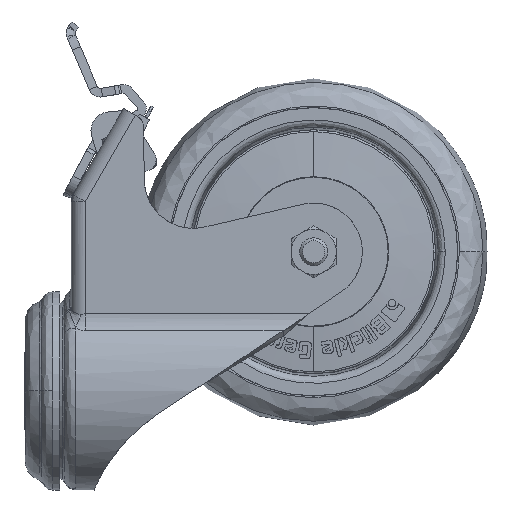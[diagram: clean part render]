
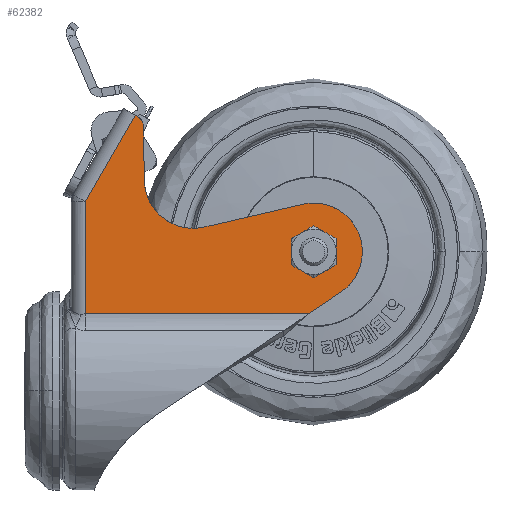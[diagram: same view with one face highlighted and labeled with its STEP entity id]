
A CAD part, left-side view. The second image highlights one B-rep face of the part: STEP entity #62382.
In plain terms, the highlighted planar face has unit normal (-1, 0, 0).
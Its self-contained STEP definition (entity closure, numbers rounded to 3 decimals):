
#1801 = DIRECTION ( 'NONE',  ( 0., -0.832, 0.555 ) ) ;
#2169 = DIRECTION ( 'NONE',  ( 0., 0.017, 1. ) ) ;
#2570 = LINE ( 'NONE', #38371, #101600 ) ;
#3184 = VERTEX_POINT ( 'NONE', #122154 ) ;
#3856 = LINE ( 'NONE', #148350, #37332 ) ;
#7084 = VECTOR ( 'NONE', #54551, 1000. ) ;
#8659 = ORIENTED_EDGE ( 'NONE', *, *, #72796, .T. ) ;
#9025 = CARTESIAN_POINT ( 'NONE',  ( -21., -85.018, 53.935 ) ) ;
#9554 = B_SPLINE_CURVE_WITH_KNOTS ( 'NONE', 3,
 ( #37423, #132191, #24273, #119780, #47542, #23520, #13349, #14132, #11844, #61491, #108844, #26549, #111170 ),
 .UNSPECIFIED., .F., .F.,
 ( 4, 1, 1, 1, 1, 1, 1, 1, 1, 1, 4 ),
 ( 0., 0.002, 0.005, 0.007, 0.01, 0.012, 0.015, 0.017, 0.02, 0.022, 0.025 ),
 .UNSPECIFIED. ) ;
#11373 = CARTESIAN_POINT ( 'NONE',  ( -21., -95.354, 46.755 ) ) ;
#11844 = CARTESIAN_POINT ( 'NONE',  ( -21., -36.333, 53.355 ) ) ;
#13349 = CARTESIAN_POINT ( 'NONE',  ( -21., -39.655, 49.639 ) ) ;
#14132 = CARTESIAN_POINT ( 'NONE',  ( -21., -37.828, 51.349 ) ) ;
#16303 = DIRECTION ( 'NONE',  ( 0., 0., -1. ) ) ;
#19155 = CARTESIAN_POINT ( 'NONE',  ( -21., -51.469, 47.089 ) ) ;
#22175 = AXIS2_PLACEMENT_3D ( 'NONE', #131180, #72050, #61243 ) ;
#22273 = CARTESIAN_POINT ( 'NONE',  ( -21., -80.693, 53.836 ) ) ;
#23520 = CARTESIAN_POINT ( 'NONE',  ( -21., -41.756, 48.28 ) ) ;
#23872 = VERTEX_POINT ( 'NONE', #19155 ) ;
#24273 = CARTESIAN_POINT ( 'NONE',  ( -21., -49.007, 46.673 ) ) ;
#26486 = LINE ( 'NONE', #87774, #37755 ) ;
#26549 = CARTESIAN_POINT ( 'NONE',  ( -21., -34.336, 59.655 ) ) ;
#27793 = CARTESIAN_POINT ( 'NONE',  ( -21., -91.49, 28.835 ) ) ;
#28509 = CARTESIAN_POINT ( 'NONE',  ( -21., -81.494, 22.164 ) ) ;
#30049 = CARTESIAN_POINT ( 'NONE',  ( -21., -32.115, 78.999 ) ) ;
#31587 = ORIENTED_EDGE ( 'NONE', *, *, #116150, .T. ) ;
#31643 = CARTESIAN_POINT ( 'NONE',  ( -21., -79.851, 53.641 ) ) ;
#33124 = B_SPLINE_CURVE_WITH_KNOTS ( 'NONE', 3,
 ( #141393, #151523, #57565, #45109, #128255, #58343, #91656 ),
 .UNSPECIFIED., .F., .F.,
 ( 4, 1, 1, 1, 4 ),
 ( 0., 0.001, 0.002, 0.002, 0.003 ),
 .UNSPECIFIED. ) ;
#34032 = EDGE_LOOP ( 'NONE', ( #142790, #108730, #74132, #83355, #8659, #55802, #31587, #53066, #113911, #86705 ) ) ;
#37332 = VECTOR ( 'NONE', #16303, 1000. ) ;
#37423 = CARTESIAN_POINT ( 'NONE',  ( -21., -51.469, 47.089 ) ) ;
#37755 = VECTOR ( 'NONE', #146088, 1000. ) ;
#38371 = CARTESIAN_POINT ( 'NONE',  ( -21., -81.494, 22.164 ) ) ;
#40172 = DIRECTION ( 'NONE',  ( 0., 0.866, 0.5 ) ) ;
#40950 = EDGE_CURVE ( 'NONE', #114731, #52004, #114823, .T. ) ;
#44505 = VERTEX_POINT ( 'NONE', #62413 ) ;
#44713 = CARTESIAN_POINT ( 'NONE',  ( -21., -34.048, 76.203 ) ) ;
#44785 = CARTESIAN_POINT ( 'NONE',  ( -21., -96.673, 36.639 ) ) ;
#45109 = CARTESIAN_POINT ( 'NONE',  ( -21., -33.662, 77.69 ) ) ;
#47542 = CARTESIAN_POINT ( 'NONE',  ( -21., -44.064, 47.315 ) ) ;
#48081 = PLANE ( 'NONE',  #22175 ) ;
#52004 = VERTEX_POINT ( 'NONE', #28509 ) ;
#53066 = ORIENTED_EDGE ( 'NONE', *, *, #101044, .T. ) ;
#54551 = DIRECTION ( 'NONE',  ( 0., 0.974, -0.225 ) ) ;
#55685 = CARTESIAN_POINT ( 'NONE',  ( -21., -82.415, 54.068 ) ) ;
#55802 = ORIENTED_EDGE ( 'NONE', *, *, #99637, .T. ) ;
#57565 = CARTESIAN_POINT ( 'NONE',  ( -21., -33.968, 76.974 ) ) ;
#58343 = CARTESIAN_POINT ( 'NONE',  ( -21., -32.771, 78.62 ) ) ;
#58776 = CARTESIAN_POINT ( 'NONE',  ( -21., -89.928, 52.258 ) ) ;
#58980 = FACE_OUTER_BOUND ( 'NONE', #34032, .T. ) ;
#61243 = DIRECTION ( 'NONE',  ( 0., 0., 1. ) ) ;
#61491 = CARTESIAN_POINT ( 'NONE',  ( -21., -35.216, 55.595 ) ) ;
#62382 = ADVANCED_FACE ( 'NONE', ( #58980 ), #48081, .T. ) ;
#62413 = CARTESIAN_POINT ( 'NONE',  ( -21., -90.771, 28.355 ) ) ;
#64374 = DIRECTION ( 'NONE',  ( 0., -1., 0. ) ) ;
#68039 = CARTESIAN_POINT ( 'NONE',  ( -21., -87.551, 53.325 ) ) ;
#70328 = CARTESIAN_POINT ( 'NONE',  ( -21., -94.527, 31.914 ) ) ;
#72050 = DIRECTION ( 'NONE',  ( -1., 0., 0. ) ) ;
#72796 = EDGE_CURVE ( 'NONE', #44505, #136819, #103550, .T. ) ;
#74132 = ORIENTED_EDGE ( 'NONE', *, *, #40950, .T. ) ;
#75097 = CARTESIAN_POINT ( 'NONE',  ( -21., -92.84, 29.928 ) ) ;
#78883 = VECTOR ( 'NONE', #2169, 1000. ) ;
#80471 = CARTESIAN_POINT ( 'NONE',  ( -21., -97.059, 39.216 ) ) ;
#83355 = ORIENTED_EDGE ( 'NONE', *, *, #146262, .T. ) ;
#84654 = CARTESIAN_POINT ( 'NONE',  ( -21., -32.548, 78.749 ) ) ;
#86705 = ORIENTED_EDGE ( 'NONE', *, *, #153538, .T. ) ;
#86768 = CARTESIAN_POINT ( 'NONE',  ( -21., -90.771, 28.355 ) ) ;
#87564 = LINE ( 'NONE', #135006, #78883 ) ;
#87774 = CARTESIAN_POINT ( 'NONE',  ( -21., -24.516, 66.837 ) ) ;
#88860 = VECTOR ( 'NONE', #64374, 1000. ) ;
#91656 = CARTESIAN_POINT ( 'NONE',  ( -21., -32.548, 78.749 ) ) ;
#92886 = CARTESIAN_POINT ( 'NONE',  ( -21., -96.962, 41.82 ) ) ;
#93242 = EDGE_CURVE ( 'NONE', #131119, #121168, #26486, .T. ) ;
#93650 = CARTESIAN_POINT ( 'NONE',  ( -21., -92.069, 50.771 ) ) ;
#97066 = CARTESIAN_POINT ( 'NONE',  ( -21., -17.35, 54.425 ) ) ;
#99075 = EDGE_CURVE ( 'NONE', #149600, #112766, #33124, .T. ) ;
#99637 = EDGE_CURVE ( 'NONE', #136819, #23872, #103380, .T. ) ;
#99844 = CARTESIAN_POINT ( 'NONE',  ( -21., -17.35, 22.164 ) ) ;
#101044 = EDGE_CURVE ( 'NONE', #3184, #149600, #87564, .T. ) ;
#101600 = VECTOR ( 'NONE', #1801, 1000. ) ;
#103380 = LINE ( 'NONE', #104133, #7084 ) ;
#103550 = B_SPLINE_CURVE_WITH_KNOTS ( 'NONE', 3,
 ( #86768, #27793, #75097, #70328, #149661, #44785, #80471, #92886, #115447, #11373, #151198, #93650, #58776, #68039, #9025, #55685, #22273, #31643 ),
 .UNSPECIFIED., .F., .F.,
 ( 4, 1, 1, 1, 1, 1, 1, 1, 1, 1, 1, 1, 1, 1, 1, 4 ),
 ( 0., 0.003, 0.005, 0.008, 0.01, 0.013, 0.015, 0.018, 0.021, 0.023, 0.026, 0.028, 0.031, 0.034, 0.036, 0.039 ),
 .UNSPECIFIED. ) ;
#104133 = CARTESIAN_POINT ( 'NONE',  ( -21., -79.851, 53.641 ) ) ;
#108730 = ORIENTED_EDGE ( 'NONE', *, *, #137544, .T. ) ;
#108844 = CARTESIAN_POINT ( 'NONE',  ( -21., -34.514, 57.996 ) ) ;
#110820 = LINE ( 'NONE', #30049, #115627 ) ;
#111170 = CARTESIAN_POINT ( 'NONE',  ( -21., -34.322, 60.486 ) ) ;
#112766 = VERTEX_POINT ( 'NONE', #84654 ) ;
#113911 = ORIENTED_EDGE ( 'NONE', *, *, #99075, .T. ) ;
#114731 = VERTEX_POINT ( 'NONE', #99844 ) ;
#114823 = LINE ( 'NONE', #124225, #88860 ) ;
#115447 = CARTESIAN_POINT ( 'NONE',  ( -21., -96.388, 44.362 ) ) ;
#115627 = VECTOR ( 'NONE', #40172, 1000. ) ;
#116150 = EDGE_CURVE ( 'NONE', #23872, #3184, #9554, .T. ) ;
#117166 = CARTESIAN_POINT ( 'NONE',  ( -21., -79.851, 53.641 ) ) ;
#119780 = CARTESIAN_POINT ( 'NONE',  ( -21., -46.507, 46.773 ) ) ;
#121168 = VERTEX_POINT ( 'NONE', #97066 ) ;
#122154 = CARTESIAN_POINT ( 'NONE',  ( -21., -34.322, 60.486 ) ) ;
#124225 = CARTESIAN_POINT ( 'NONE',  ( -21., -57.178, 22.164 ) ) ;
#126397 = CARTESIAN_POINT ( 'NONE',  ( -21., -31.682, 79.249 ) ) ;
#128255 = CARTESIAN_POINT ( 'NONE',  ( -21., -33.184, 78.305 ) ) ;
#131119 = VERTEX_POINT ( 'NONE', #126397 ) ;
#131180 = CARTESIAN_POINT ( 'NONE',  ( -21., -15.757, 21.022 ) ) ;
#132191 = CARTESIAN_POINT ( 'NONE',  ( -21., -50.66, 46.902 ) ) ;
#135006 = CARTESIAN_POINT ( 'NONE',  ( -21., -34.322, 60.486 ) ) ;
#136819 = VERTEX_POINT ( 'NONE', #117166 ) ;
#137544 = EDGE_CURVE ( 'NONE', #121168, #114731, #3856, .T. ) ;
#141393 = CARTESIAN_POINT ( 'NONE',  ( -21., -34.048, 76.203 ) ) ;
#142790 = ORIENTED_EDGE ( 'NONE', *, *, #93242, .T. ) ;
#146088 = DIRECTION ( 'NONE',  ( 0., 0.5, -0.866 ) ) ;
#146262 = EDGE_CURVE ( 'NONE', #52004, #44505, #2570, .T. ) ;
#148350 = CARTESIAN_POINT ( 'NONE',  ( -21., -17.35, 50.706 ) ) ;
#149600 = VERTEX_POINT ( 'NONE', #44713 ) ;
#149661 = CARTESIAN_POINT ( 'NONE',  ( -21., -95.82, 34.177 ) ) ;
#151198 = CARTESIAN_POINT ( 'NONE',  ( -21., -93.898, 48.916 ) ) ;
#151523 = CARTESIAN_POINT ( 'NONE',  ( -21., -34.043, 76.46 ) ) ;
#153538 = EDGE_CURVE ( 'NONE', #112766, #131119, #110820, .T. ) ;
